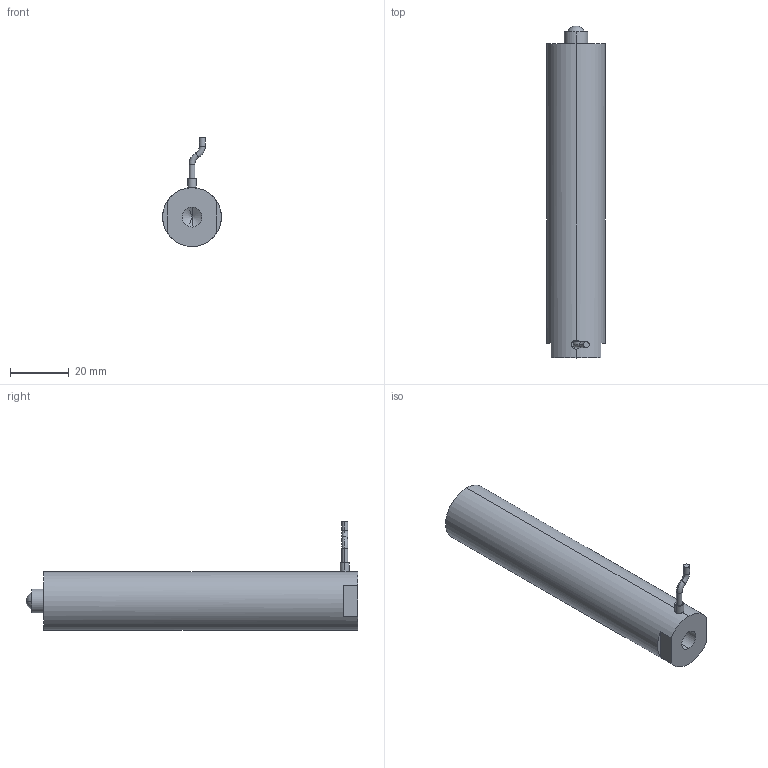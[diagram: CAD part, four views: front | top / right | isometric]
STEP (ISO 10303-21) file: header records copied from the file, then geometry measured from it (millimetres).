
FILE_DESCRIPTION (( 'STEP AP214' ), '1' );
FILE_NAME ('球头式100VS20.STEP', '2021-07-08T05:53:35', ( '微软用户' ), ( '微软公司' ), 'SwSTEP 2.0', 'SolidWorks 2016', '' );
FILE_SCHEMA (( 'AUTOMOTIVE_DESIGN' ));
Length unit declared in the file: millimetre
Products named in the file (1): ⑩芛宒100VS20
Bounding box: 20 x 113 x 37.06 mm (x, y, z)
Volume: 33392.6 mm3; surface area: 7823.8 mm2
Topology: 1 solids, 1 shells, 933 faces, 2522 edges, 1676 vertices
Faces by surface type: bspline 517, plane 303, cylinder 105, torus 4, sphere 2, cone 2
Entity records: 45263 total; most frequent: CARTESIAN_POINT 26422, ORIENTED_EDGE 5032, EDGE_CURVE 2516, DIRECTION 1908, B_SPLINE_CURVE_WITH_KNOTS 1708, VERTEX_POINT 1674, EDGE_LOOP 1022, ADVANCED_FACE 933
